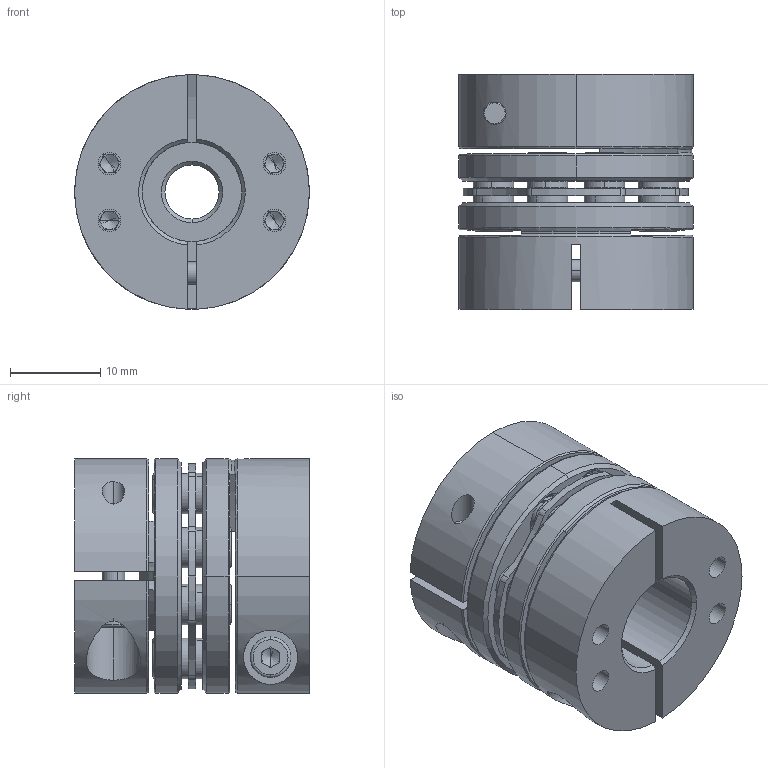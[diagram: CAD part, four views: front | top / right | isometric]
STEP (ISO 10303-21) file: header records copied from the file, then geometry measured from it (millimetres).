
FILE_DESCRIPTION (( 'STEP AP203' ), '1' );
FILE_NAME ('LDG-D26-6-11.STEP', '2021-10-28T03:25:44', ( '' ), ( '' ), 'SwSTEP 2.0', 'SolidWorks 2018', '' );
FILE_SCHEMA (( 'CONFIG_CONTROL_DESIGN' ));
Length unit declared in the file: millimetre
Products named in the file (2): 錨璃2^LDG-D26蚾饜芞1; LDG-D26-6-11
Assembly tree (1 placements, depth 2):
  LDG-D26-6-11
    錨璃2^LDG-D26蚾饜芞1
Bounding box: 26 x 26 x 26 mm (x, y, z)
Volume: 9882.7 mm3; surface area: 8979.7 mm2
Topology: 1 solids, 21 shells, 765 faces, 1872 edges, 1159 vertices
Faces by surface type: cylinder 301, plane 244, cone 200, torus 20
Entity records: 23057 total; most frequent: DIRECTION 4281, CARTESIAN_POINT 4164, ORIENTED_EDGE 3688, EDGE_CURVE 1844, AXIS2_PLACEMENT_3D 1740, VERTEX_POINT 1159, CIRCLE 971, EDGE_LOOP 909
